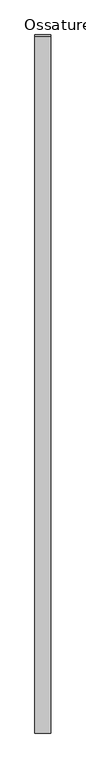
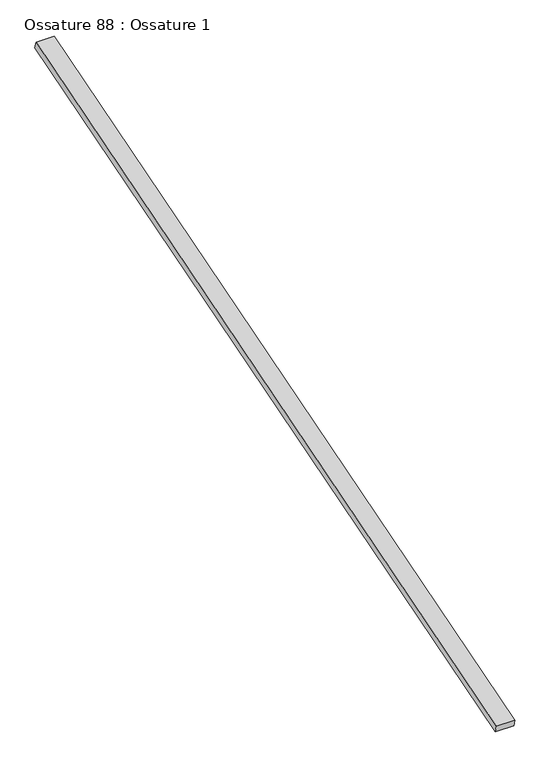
"""IFC4 building model written with IfcOpenShell, lengths in millimetres: beam geometry, Ossature 88 : Ossature 1."""

from ifc_helpers import new_model, si_unit, frame, origin, place, context, project, spatial, polyline, outline, extrude, source, transform, mapped, element, save


def ossature_88_ossature_1_186b28d6(model_context):
    return source(origin(), model_context, "Body", "SweptSolid", [
        extrude(outline(polyline([(0.0, 0.0), (0.0, -4543.0299679), (-100.0, -4543.0299679), (-100.0, 0.0), (0.0, 0.0)])), frame((21242.0466393, -833.3913565, 8153.6336115), z_axis=(0.0, -0.28734788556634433, 0.9578262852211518), x_axis=(-1.0, 0.0, 0.0)), (0.0, 0.0, 1.0), 40.0),
    ])


if __name__ == "__main__":
    model = new_model("IFC4")
    model_context = context("Model", 3, world=origin())
    ifc_project = project(units=[si_unit("LENGTHUNIT", "METRE", prefix="MILLI")], contexts=[model_context])
    site = spatial("IfcSite", under=ifc_project)
    building = spatial("IfcBuilding", under=site)
    placement = place(None, origin())
    ossature_88_ossature_1_shape = ossature_88_ossature_1_186b28d6(model_context)
    element("IfcBeam", 1, ObjectType="Ossature 88 : Ossature 1", at=placement, inside=building, context=model_context, shape_type="MappedRepresentation", body=[
        mapped(ossature_88_ossature_1_shape, transform((0.0, 0.0, 0.0), x_axis=(1.0, 0.0, 0.0), y_axis=(0.0, 1.0, 0.0), z_axis=(0.0, 0.0, 1.0))),
    ])
    save(model, "model.ifc")
